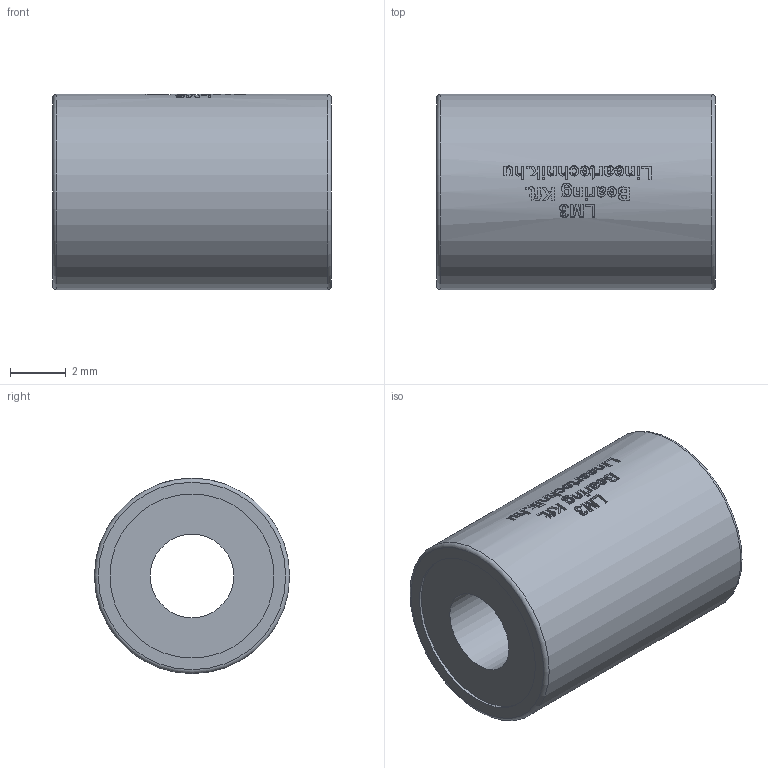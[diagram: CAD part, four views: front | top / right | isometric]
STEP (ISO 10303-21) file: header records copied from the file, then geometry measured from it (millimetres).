
FILE_DESCRIPTION(/* description */ ('Huosing for flange nuts'),/* implementation_level */ '2;1');
FILE_NAME(/* name */ 'LM3',/* time_stamp */ '2019-05-07T14:08:08+02:00',/* author */ ('VĂ©gh MĂˇtĂ©'),/* organization */ ('Bearing Kft'),/* preprocessor_version */ 'ST-DEVELOPER v16.7',/* originating_system */ 'DEX',/* authorisation */ $);
FILE_SCHEMA (('AUTOMOTIVE_DESIGN {1 0 10303 214 3 1 1}'));
Length unit declared in the file: millimetre
Products named in the file (1): LM3
Bounding box: 10 x 7 x 7 mm (x, y, z)
Volume: 309.7 mm3; surface area: 381.5 mm2
Topology: 1 solids, 1 shells, 285 faces, 751 edges, 500 vertices
Faces by surface type: plane 145, bspline 91, cylinder 47, torus 2
Full cylindrical faces by diameter (mm): 3 x1, 5.88 x2, 7 x1
Entity records: 11703 total; most frequent: CARTESIAN_POINT 5391, ORIENTED_EDGE 1410, DIRECTION 1039, EDGE_CURVE 705, VERTEX_POINT 473, LINE 385, VECTOR 385, EDGE_LOOP 334
